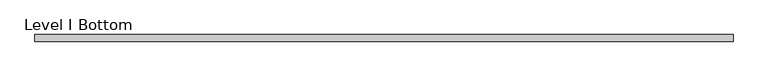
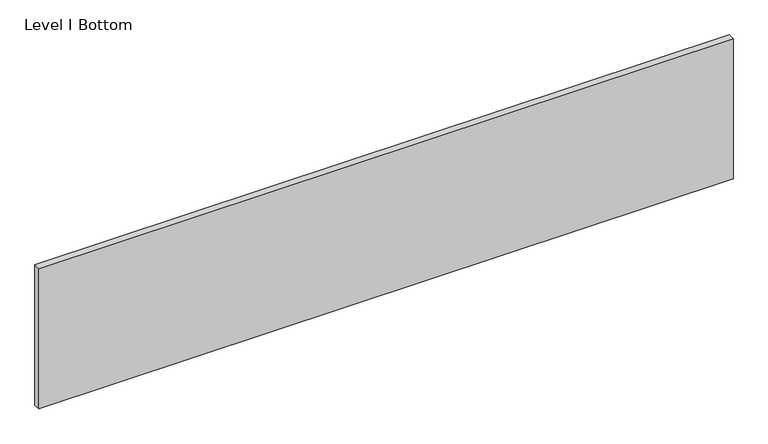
"""IFC4 building model written with IfcOpenShell, lengths in millimetres: proxy geometry, Panel-Fascia-Teknion-Altos-Landscape : Level I Bottom."""

from ifc_helpers import new_model, si_unit, frame, origin, place, context, project, spatial, polyline, outline, extrude, source, transform, mapped, element, save


def level_i_bottom_8ccd5de8(model_context):
    return source(origin(), model_context, "Body", "SweptSolid", [
        extrude(outline(polyline([(1005.8356344, -9.525), (-1005.8356344, -9.525), (-1005.8356344, 9.525), (1005.8356344, 9.525), (1005.8356344, -9.525)])), frame((0.0, 0.0, 3.175), z_axis=(0.0, 0.0, 1.0), x_axis=(1.0, 0.0, 0.0)), (0.0, 0.0, 1.0), 429.768),
    ])


if __name__ == "__main__":
    model = new_model("IFC4")
    model_context = context("Model", 3, world=origin())
    ifc_project = project(units=[si_unit("LENGTHUNIT", "METRE", prefix="MILLI")], contexts=[model_context])
    site = spatial("IfcSite", under=ifc_project)
    building = spatial("IfcBuilding", under=site)
    placement = place(None, origin())
    level_i_bottom_shape = level_i_bottom_8ccd5de8(model_context)
    element("IfcBuildingElementProxy", 1, Name="Panel-Fascia-Teknion-Altos-Landscape : Level I Bottom", ObjectType="Panel-Fascia-Teknion-Altos-Landscape : Level I Bottom", at=placement, inside=building, context=model_context, shape_type="MappedRepresentation", body=[
        mapped(level_i_bottom_shape, transform((0.0, 0.0, 0.0), x_axis=(1.0, 0.0, 0.0), y_axis=(0.0, 1.0, 0.0), z_axis=(0.0, 0.0, 1.0))),
    ])
    save(model, "model.ifc")
